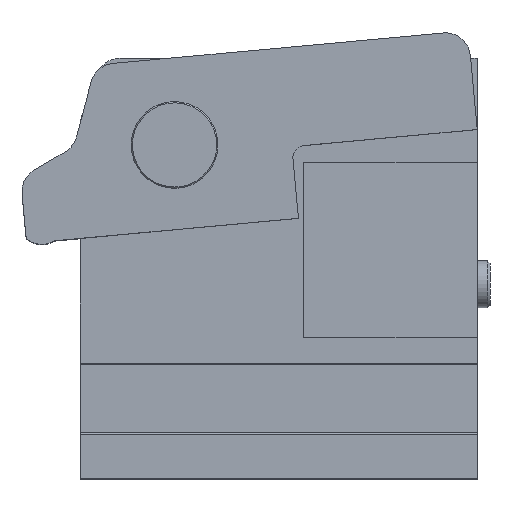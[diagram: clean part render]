
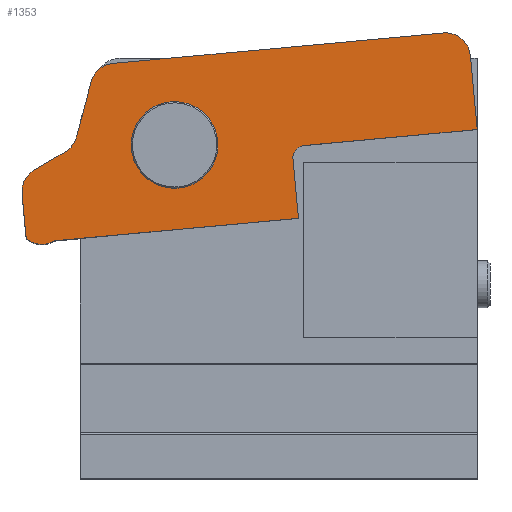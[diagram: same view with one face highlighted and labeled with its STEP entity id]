
A CAD part, top view. The second image highlights one B-rep face of the part: STEP entity #1353.
In plain terms, the highlighted planar face has unit normal (0, 0, 1).
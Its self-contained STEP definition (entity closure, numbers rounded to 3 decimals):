
#19=FACE_BOUND('',#172,.T.);
#36=PLANE('',#1469);
#96=FACE_OUTER_BOUND('',#171,.T.);
#171=EDGE_LOOP('',(#976,#977,#978,#979,#980,#981,#982,#983,#984,#985,#986,
#987,#988,#989));
#172=EDGE_LOOP('',(#990));
#235=LINE('',#2017,#369);
#248=LINE('',#2048,#382);
#254=LINE('',#2061,#388);
#263=LINE('',#2079,#397);
#266=LINE('',#2087,#400);
#273=LINE('',#2099,#407);
#274=LINE('',#2106,#408);
#275=LINE('',#2111,#409);
#369=VECTOR('',#1639,10.);
#382=VECTOR('',#1664,10.);
#388=VECTOR('',#1672,10.);
#397=VECTOR('',#1683,10.);
#400=VECTOR('',#1688,10.);
#407=VECTOR('',#1697,10.);
#408=VECTOR('',#1706,10.);
#409=VECTOR('',#1713,10.);
#494=CIRCLE('',#1427,17.475);
#515=CIRCLE('',#1470,10.);
#516=CIRCLE('',#1471,10.);
#517=CIRCLE('',#1472,10.);
#518=CIRCLE('',#1473,10.);
#519=CIRCLE('',#1474,10.);
#520=CIRCLE('',#1475,5.);
#549=VERTEX_POINT('',#1945);
#574=VERTEX_POINT('',#2014);
#575=VERTEX_POINT('',#2016);
#586=VERTEX_POINT('',#2045);
#587=VERTEX_POINT('',#2047);
#592=VERTEX_POINT('',#2058);
#593=VERTEX_POINT('',#2060);
#599=VERTEX_POINT('',#2073);
#601=VERTEX_POINT('',#2077);
#604=VERTEX_POINT('',#2084);
#605=VERTEX_POINT('',#2086);
#609=VERTEX_POINT('',#2097);
#610=VERTEX_POINT('',#2103);
#611=VERTEX_POINT('',#2105);
#612=VERTEX_POINT('',#2109);
#680=EDGE_CURVE('',#549,#549,#494,.T.);
#711=EDGE_CURVE('',#575,#574,#235,.T.);
#726=EDGE_CURVE('',#587,#586,#248,.T.);
#732=EDGE_CURVE('',#593,#592,#254,.T.);
#741=EDGE_CURVE('',#599,#601,#263,.T.);
#744=EDGE_CURVE('',#605,#604,#266,.T.);
#751=EDGE_CURVE('',#604,#609,#273,.T.);
#752=EDGE_CURVE('',#574,#587,#515,.T.);
#753=EDGE_CURVE('',#586,#593,#516,.T.);
#754=EDGE_CURVE('',#592,#610,#517,.T.);
#755=EDGE_CURVE('',#610,#611,#274,.T.);
#756=EDGE_CURVE('',#611,#599,#518,.T.);
#757=EDGE_CURVE('',#601,#605,#519,.T.);
#758=EDGE_CURVE('',#609,#612,#520,.T.);
#759=EDGE_CURVE('',#575,#612,#275,.T.);
#976=ORIENTED_EDGE('',*,*,#711,.T.);
#977=ORIENTED_EDGE('',*,*,#752,.T.);
#978=ORIENTED_EDGE('',*,*,#726,.T.);
#979=ORIENTED_EDGE('',*,*,#753,.T.);
#980=ORIENTED_EDGE('',*,*,#732,.T.);
#981=ORIENTED_EDGE('',*,*,#754,.T.);
#982=ORIENTED_EDGE('',*,*,#755,.T.);
#983=ORIENTED_EDGE('',*,*,#756,.T.);
#984=ORIENTED_EDGE('',*,*,#741,.T.);
#985=ORIENTED_EDGE('',*,*,#757,.T.);
#986=ORIENTED_EDGE('',*,*,#744,.T.);
#987=ORIENTED_EDGE('',*,*,#751,.T.);
#988=ORIENTED_EDGE('',*,*,#758,.T.);
#989=ORIENTED_EDGE('',*,*,#759,.F.);
#990=ORIENTED_EDGE('',*,*,#680,.T.);
#1353=ADVANCED_FACE('',(#96,#19),#36,.T.);
#1427=AXIS2_PLACEMENT_3D('',#1947,#1563,#1564);
#1469=AXIS2_PLACEMENT_3D('',#2100,#1698,#1699);
#1470=AXIS2_PLACEMENT_3D('',#2101,#1700,#1701);
#1471=AXIS2_PLACEMENT_3D('',#2102,#1702,#1703);
#1472=AXIS2_PLACEMENT_3D('',#2104,#1704,#1705);
#1473=AXIS2_PLACEMENT_3D('',#2107,#1707,#1708);
#1474=AXIS2_PLACEMENT_3D('',#2108,#1709,#1710);
#1475=AXIS2_PLACEMENT_3D('',#2110,#1711,#1712);
#1563=DIRECTION('center_axis',(0.,0.,
-1.));
#1564=DIRECTION('ref_axis',(0.869,-0.495,0.));
#1639=DIRECTION('',(-0.092,0.996,0.));
#1664=DIRECTION('',(-0.996,-0.092,0.));
#1672=DIRECTION('',(-0.254,-0.967,0.));
#1683=DIRECTION('',(0.092,-0.996,0.));
#1688=DIRECTION('',(0.996,0.092,0.));
#1697=DIRECTION('',(-0.092,0.996,0.));
#1698=DIRECTION('center_axis',(0.,0.,
1.));
#1699=DIRECTION('ref_axis',(0.092,-0.996,0.));
#1700=DIRECTION('center_axis',(0.,0.,
1.));
#1701=DIRECTION('ref_axis',(0.639,0.769,0.));
#1702=DIRECTION('center_axis',(0.,0.,
1.));
#1703=DIRECTION('ref_axis',(-0.646,0.763,0.));
#1704=DIRECTION('center_axis',(0.,0.,
-1.));
#1705=DIRECTION('ref_axis',(-0.504,0.864,0.));
#1706=DIRECTION('',(-0.864,-0.504,0.));
#1707=DIRECTION('center_axis',(0.,0.,
1.));
#1708=DIRECTION('ref_axis',(-0.889,0.458,0.));
#1709=DIRECTION('center_axis',(0.,0.,
1.));
#1710=DIRECTION('ref_axis',(-0.631,-0.775,0.));
#1711=DIRECTION('center_axis',(0.,0.,
-1.));
#1712=DIRECTION('ref_axis',(-0.092,0.996,0.));
#1713=DIRECTION('',(-0.996,-0.092,0.));
#1945=CARTESIAN_POINT('',(-57.187,58.395,45.));
#1947=CARTESIAN_POINT('Origin',(-42.,49.75,45.));
#2014=CARTESIAN_POINT('',(77.19,85.845,45.));
#2016=CARTESIAN_POINT('',(79.944,55.972,45.));
#2017=CARTESIAN_POINT('',(79.485,60.951,45.));
#2045=CARTESIAN_POINT('',(-66.872,82.605,45.));
#2047=CARTESIAN_POINT('',(66.314,94.885,45.));
#2048=CARTESIAN_POINT('',(30.217,91.557,45.));
#2058=CARTESIAN_POINT('',(-81.451,53.034,45.));
#2060=CARTESIAN_POINT('',(-75.625,75.191,45.));
#2061=CARTESIAN_POINT('',(-71.471,90.991,45.));
#2073=CARTESIAN_POINT('',(-103.457,30.116,45.));
#2077=CARTESIAN_POINT('',(-101.783,11.96,45.));
#2079=CARTESIAN_POINT('',(-104.734,43.966,45.));
#2084=CARTESIAN_POINT('',(7.923,20.209,45.));
#2086=CARTESIAN_POINT('',(-90.302,11.153,45.));
#2087=CARTESIAN_POINT('',(-3.848,19.123,45.));
#2097=CARTESIAN_POINT('',(5.72,44.107,45.));
#2099=CARTESIAN_POINT('',(5.261,49.086,45.));
#2100=CARTESIAN_POINT('Origin',(79.485,60.951,45.));
#2101=CARTESIAN_POINT('Origin',(67.232,84.927,45.));
#2102=CARTESIAN_POINT('Origin',(-65.954,72.648,45.));
#2103=CARTESIAN_POINT('',(-86.082,46.94,45.));
#2104=CARTESIAN_POINT('Origin',(-91.123,55.577,45.));
#2105=CARTESIAN_POINT('',(-98.54,39.67,45.));
#2106=CARTESIAN_POINT('',(-21.281,84.758,45.));
#2107=CARTESIAN_POINT('Origin',(-93.499,31.034,45.));
#2108=CARTESIAN_POINT('Origin',(-95.468,19.714,45.));
#2109=CARTESIAN_POINT('',(10.239,49.545,45.));
#2110=CARTESIAN_POINT('Origin',(10.698,44.566,45.));
#2111=CARTESIAN_POINT('',(79.944,55.972,45.));
